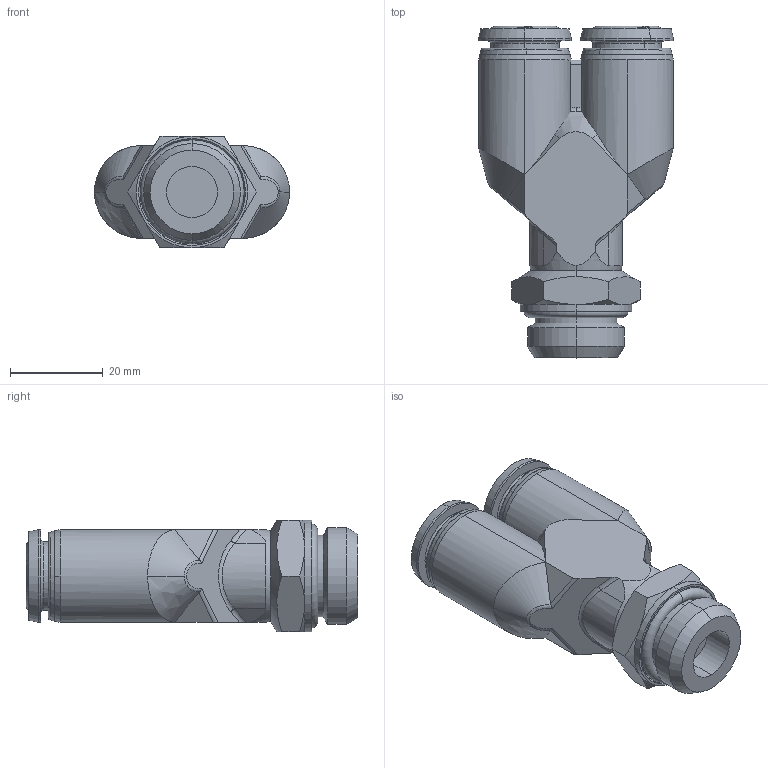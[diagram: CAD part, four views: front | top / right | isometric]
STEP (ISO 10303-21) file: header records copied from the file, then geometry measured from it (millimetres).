
FILE_DESCRIPTION (( 'STEP AP214' ), '1' );
FILE_NAME ('5532500015.step', '2012-10-02T17:47:17', ( '' ), ( '' ), 'SwSTEP 2.0', 'SolidWorks 2012', '' );
FILE_SCHEMA (( 'AUTOMOTIVE_DESIGN' ));
Length unit declared in the file: millimetre
Products named in the file (1): 5532500015
Bounding box: 42 x 71.5 x 24 mm (x, y, z)
Volume: 34596.7 mm3; surface area: 10072.2 mm2
Topology: 2 solids, 2 shells, 287 faces, 741 edges, 478 vertices
Faces by surface type: bspline 116, cone 68, plane 42, cylinder 38, torus 23
Entity records: 19132 total; most frequent: CARTESIAN_POINT 10065, ORIENTED_EDGE 1482, DIRECTION 788, EDGE_CURVE 741, VERTEX_POINT 478, B_SPLINE_CURVE_WITH_KNOTS 436, AXIS2_PLACEMENT_3D 329, EDGE_LOOP 309
